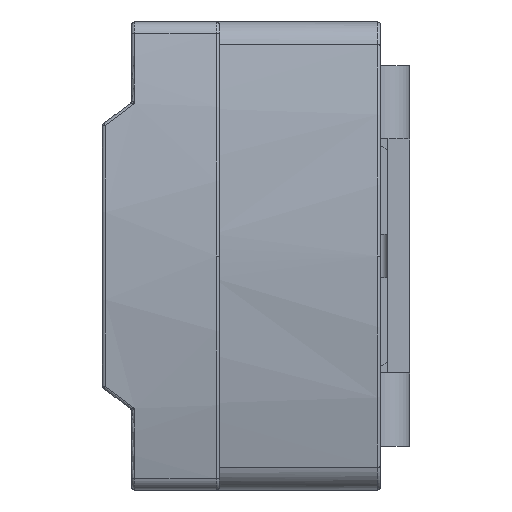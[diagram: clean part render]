
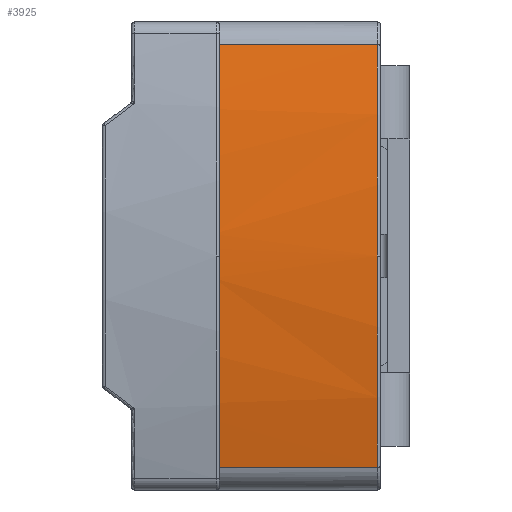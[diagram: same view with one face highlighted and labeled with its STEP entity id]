
A CAD part, left-side view. The second image highlights one B-rep face of the part: STEP entity #3925.
In plain terms, the highlighted cylindrical face has radius 65 mm (diameter 130 mm), a partial arc.
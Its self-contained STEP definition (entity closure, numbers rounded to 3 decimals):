
#69 = EDGE_CURVE ( 'NONE', #5177, #8437, #10601, .T. ) ;
#147 = CARTESIAN_POINT ( 'NONE',  ( -24.375, 10., -14.444 ) ) ;
#173 = CARTESIAN_POINT ( 'NONE',  ( -24.375, 22.125, 14.444 ) ) ;
#275 = CARTESIAN_POINT ( 'NONE',  ( -24.375, -4.8, -14.444 ) ) ;
#393 = ORIENTED_EDGE ( 'NONE', *, *, #3620, .F. ) ;
#687 = CARTESIAN_POINT ( 'NONE',  ( 39., 6.4, 0. ) ) ;
#867 = CYLINDRICAL_SURFACE ( 'NONE', #8845, 65. ) ;
#1209 = VERTEX_POINT ( 'NONE', #11068 ) ;
#1353 = DIRECTION ( 'NONE',  ( -1., 0., 0. ) ) ;
#1450 = LINE ( 'NONE', #4686, #7041 ) ;
#1759 = CARTESIAN_POINT ( 'NONE',  ( 39., 10., 0. ) ) ;
#2040 = AXIS2_PLACEMENT_3D ( 'NONE', #687, #11975, #3459 ) ;
#2436 = CARTESIAN_POINT ( 'NONE',  ( 39., -4.8, 0. ) ) ;
#2625 = VERTEX_POINT ( 'NONE', #10303 ) ;
#2641 = VERTEX_POINT ( 'NONE', #9293 ) ;
#2722 = CARTESIAN_POINT ( 'NONE',  ( -24.375, -4.8, 14.444 ) ) ;
#2749 = ORIENTED_EDGE ( 'NONE', *, *, #4978, .T. ) ;
#2831 = DIRECTION ( 'NONE',  ( 1., 0., 0. ) ) ;
#3029 = VERTEX_POINT ( 'NONE', #2722 ) ;
#3348 = AXIS2_PLACEMENT_3D ( 'NONE', #2436, #8699, #1353 ) ;
#3459 = DIRECTION ( 'NONE',  ( 1., 0., 0. ) ) ;
#3620 = EDGE_CURVE ( 'NONE', #1209, #2641, #10415, .T. ) ;
#3640 = CIRCLE ( 'NONE', #11688, 65. ) ;
#3897 = VERTEX_POINT ( 'NONE', #13388 ) ;
#3925 = ADVANCED_FACE ( 'NONE', ( #4028 ), #867, .T. ) ;
#4028 = FACE_OUTER_BOUND ( 'NONE', #4546, .T. ) ;
#4034 = ORIENTED_EDGE ( 'NONE', *, *, #8578, .F. ) ;
#4431 = EDGE_CURVE ( 'NONE', #8898, #5177, #12581, .T. ) ;
#4546 = EDGE_LOOP ( 'NONE', ( #4672, #6809, #2749, #6640, #4034, #7509, #393, #12458, #5633 ) ) ;
#4616 = CARTESIAN_POINT ( 'NONE',  ( -24.375, 22.125, -14.444 ) ) ;
#4672 = ORIENTED_EDGE ( 'NONE', *, *, #4431, .T. ) ;
#4686 = CARTESIAN_POINT ( 'NONE',  ( -25.983, 10., -1.5 ) ) ;
#4932 = EDGE_CURVE ( 'NONE', #2625, #1209, #1450, .T. ) ;
#4978 = EDGE_CURVE ( 'NONE', #8437, #3029, #10882, .T. ) ;
#5177 = VERTEX_POINT ( 'NONE', #275 ) ;
#5268 = DIRECTION ( 'NONE',  ( 0., 1., 0. ) ) ;
#5315 = AXIS2_PLACEMENT_3D ( 'NONE', #1759, #9099, #2831 ) ;
#5556 = VECTOR ( 'NONE', #12996, 1000. ) ;
#5633 = ORIENTED_EDGE ( 'NONE', *, *, #11504, .F. ) ;
#5885 = DIRECTION ( 'NONE',  ( 0., 1., 0. ) ) ;
#6014 = CARTESIAN_POINT ( 'NONE',  ( -25.983, 10., 1.5 ) ) ;
#6640 = ORIENTED_EDGE ( 'NONE', *, *, #13593, .T. ) ;
#6809 = ORIENTED_EDGE ( 'NONE', *, *, #69, .T. ) ;
#7041 = VECTOR ( 'NONE', #9900, 1000. ) ;
#7086 = CARTESIAN_POINT ( 'NONE',  ( 39., 22.125, 0. ) ) ;
#7509 = ORIENTED_EDGE ( 'NONE', *, *, #11817, .T. ) ;
#7535 = DIRECTION ( 'NONE',  ( 0., 1., 0. ) ) ;
#8437 = VERTEX_POINT ( 'NONE', #12038 ) ;
#8527 = CIRCLE ( 'NONE', #5315, 65. ) ;
#8578 = EDGE_CURVE ( 'NONE', #12249, #3897, #8527, .T. ) ;
#8694 = VECTOR ( 'NONE', #9174, 1000. ) ;
#8699 = DIRECTION ( 'NONE',  ( 0., 1., 0. ) ) ;
#8845 = AXIS2_PLACEMENT_3D ( 'NONE', #7086, #9200, #11322 ) ;
#8898 = VERTEX_POINT ( 'NONE', #147 ) ;
#8903 = CARTESIAN_POINT ( 'NONE',  ( -25.983, 10., 1.5 ) ) ;
#9026 = LINE ( 'NONE', #6014, #8694 ) ;
#9099 = DIRECTION ( 'NONE',  ( 0., 1., 0. ) ) ;
#9174 = DIRECTION ( 'NONE',  ( 0., -1., 0. ) ) ;
#9200 = DIRECTION ( 'NONE',  ( 0., -1., 0. ) ) ;
#9293 = CARTESIAN_POINT ( 'NONE',  ( -25.983, 6.4, 1.5 ) ) ;
#9491 = LINE ( 'NONE', #173, #11653 ) ;
#9900 = DIRECTION ( 'NONE',  ( 0., -1., 0. ) ) ;
#10303 = CARTESIAN_POINT ( 'NONE',  ( -25.983, 10., -1.5 ) ) ;
#10415 = CIRCLE ( 'NONE', #2040, 65. ) ;
#10601 = CIRCLE ( 'NONE', #11240, 65. ) ;
#10882 = CIRCLE ( 'NONE', #3348, 65. ) ;
#11068 = CARTESIAN_POINT ( 'NONE',  ( -25.983, 6.4, -1.5 ) ) ;
#11240 = AXIS2_PLACEMENT_3D ( 'NONE', #12153, #5885, #13214 ) ;
#11322 = DIRECTION ( 'NONE',  ( 1., 0., 0. ) ) ;
#11504 = EDGE_CURVE ( 'NONE', #8898, #2625, #3640, .T. ) ;
#11551 = CARTESIAN_POINT ( 'NONE',  ( 39., 10., 0. ) ) ;
#11653 = VECTOR ( 'NONE', #7535, 1000. ) ;
#11688 = AXIS2_PLACEMENT_3D ( 'NONE', #11551, #5268, #12608 ) ;
#11817 = EDGE_CURVE ( 'NONE', #12249, #2641, #9026, .T. ) ;
#11975 = DIRECTION ( 'NONE',  ( 0., 1., 0. ) ) ;
#12038 = CARTESIAN_POINT ( 'NONE',  ( -26., -4.8, 0. ) ) ;
#12153 = CARTESIAN_POINT ( 'NONE',  ( 39., -4.8, 0. ) ) ;
#12249 = VERTEX_POINT ( 'NONE', #8903 ) ;
#12458 = ORIENTED_EDGE ( 'NONE', *, *, #4932, .F. ) ;
#12581 = LINE ( 'NONE', #4616, #5556 ) ;
#12608 = DIRECTION ( 'NONE',  ( 1., 0., 0. ) ) ;
#12996 = DIRECTION ( 'NONE',  ( 0., -1., 0. ) ) ;
#13214 = DIRECTION ( 'NONE',  ( -1., 0., 0. ) ) ;
#13388 = CARTESIAN_POINT ( 'NONE',  ( -24.375, 10., 14.444 ) ) ;
#13593 = EDGE_CURVE ( 'NONE', #3029, #3897, #9491, .T. ) ;
